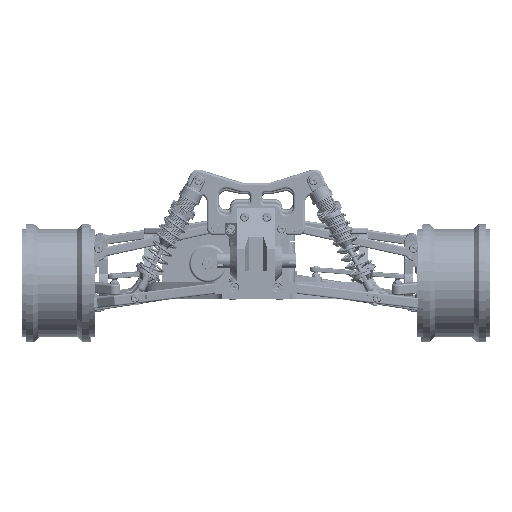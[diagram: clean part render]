
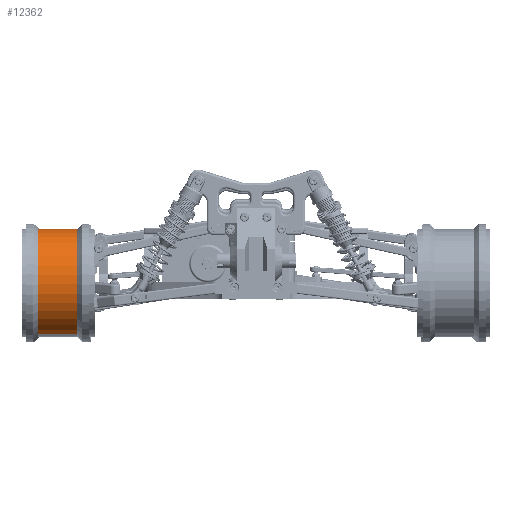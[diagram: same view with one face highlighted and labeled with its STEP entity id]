
A CAD part, left-side view. The second image highlights one B-rep face of the part: STEP entity #12362.
In plain terms, the highlighted cylindrical face has radius 36 mm (diameter 72 mm), a partial arc.
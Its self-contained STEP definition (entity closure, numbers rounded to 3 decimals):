
#12362=ADVANCED_FACE('',(#24705),#24706,.T.);
#24705=FACE_OUTER_BOUND('',#45902,.T.);
#24706=CYLINDRICAL_SURFACE('',#45903,36.0);
#45902=EDGE_LOOP('',(#82147,#82148,#82149,#82150));
#45903=AXIS2_PLACEMENT_3D('',#82151,#82152,#82153);
#82147=ORIENTED_EDGE('',*,*,#105689,.F.);
#82148=ORIENTED_EDGE('',*,*,#105416,.F.);
#82149=ORIENTED_EDGE('',*,*,#105691,.F.);
#82150=ORIENTED_EDGE('',*,*,#111172,.F.);
#82151=CARTESIAN_POINT('',(0.0,0.0,0.0));
#82152=DIRECTION('',(-0.0,1.0,0.0));
#82153=DIRECTION('',(0.0,0.0,-1.0));
#105416=EDGE_CURVE('',#123348,#123352,#124412,.T.);
#105689=EDGE_CURVE('',#123352,#124848,#124849,.T.);
#105691=EDGE_CURVE('',#124850,#123348,#124852,.T.);
#111172=EDGE_CURVE('',#124848,#124850,#133104,.T.);
#123348=VERTEX_POINT('',#157724);
#123352=VERTEX_POINT('',#157729);
#124412=CIRCLE('',#159869,36.0);
#124848=VERTEX_POINT('',#160603);
#124849=LINE('',#160604,#160605);
#124850=VERTEX_POINT('',#160606);
#124852=LINE('',#160608,#160609);
#133104=CIRCLE('',#192681,36.0);
#157724=CARTESIAN_POINT('',(0.,-21.0,36.0));
#157729=CARTESIAN_POINT('',(0.0,-21.0,-36.0));
#159869=AXIS2_PLACEMENT_3D('',#215151,#215152,#215153);
#160603=CARTESIAN_POINT('',(0.,5.0,-36.0));
#160604=CARTESIAN_POINT('',(0.,0.0,-36.0));
#160605=VECTOR('',#215515,1.0);
#160606=CARTESIAN_POINT('',(0.0,5.0,36.0));
#160608=CARTESIAN_POINT('',(0.,0.0,36.0));
#160609=VECTOR('',#215519,1.0);
#192681=AXIS2_PLACEMENT_3D('',#222442,#222443,#222444);
#215151=CARTESIAN_POINT('',(0.0,-21.0,0.0));
#215152=DIRECTION('',(0.0,-1.0,0.0));
#215153=DIRECTION('',(0.0,0.0,-1.0));
#215515=DIRECTION('',(-0.0,1.0,0.0));
#215519=DIRECTION('',(-0.0,-1.0,0.0));
#222442=CARTESIAN_POINT('',(0.0,5.0,0.0));
#222443=DIRECTION('',(0.0,1.0,0.0));
#222444=DIRECTION('',(0.0,0.0,1.0));
